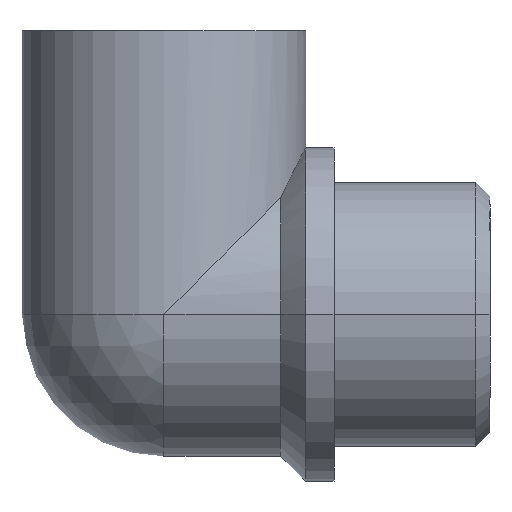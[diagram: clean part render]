
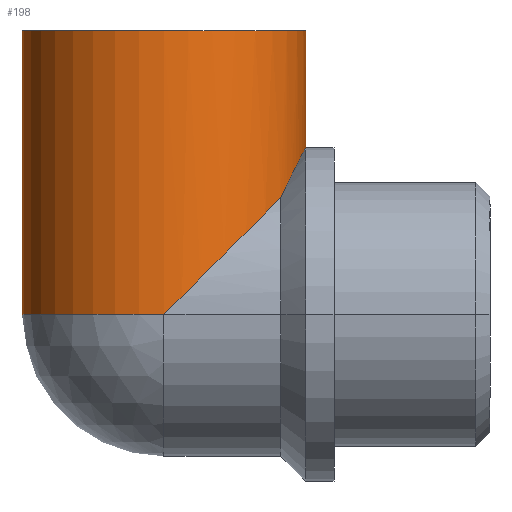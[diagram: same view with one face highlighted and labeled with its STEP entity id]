
A CAD part, front view. The second image highlights one B-rep face of the part: STEP entity #198.
In plain terms, the highlighted cylindrical face has radius 10 mm (diameter 20 mm), a partial arc.
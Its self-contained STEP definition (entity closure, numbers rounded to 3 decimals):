
#6 = EDGE_CURVE ( 'NONE', #68, #251, #533, .T. ) ;
#41 = VERTEX_POINT ( 'NONE', #555 ) ;
#51 = EDGE_CURVE ( 'NONE', #139, #41, #586, .T. ) ;
#67 = EDGE_CURVE ( 'NONE', #138, #68, #489, .T. ) ;
#68 = VERTEX_POINT ( 'NONE', #485 ) ;
#138 = VERTEX_POINT ( 'NONE', #734 ) ;
#139 = VERTEX_POINT ( 'NONE', #733 ) ;
#198 = ADVANCED_FACE ( 'NONE', ( #835 ), #831, .T. ) ;
#199 = EDGE_LOOP ( 'NONE', ( #200, #201, #202, #203, #212, #213 ) ) ;
#200 = ORIENTED_EDGE ( 'NONE', *, *, #67, .F. ) ;
#201 = ORIENTED_EDGE ( 'NONE', *, *, #285, .F. ) ;
#202 = ORIENTED_EDGE ( 'NONE', *, *, #51, .T. ) ;
#203 = ORIENTED_EDGE ( 'NONE', *, *, #240, .T. ) ;
#212 = ORIENTED_EDGE ( 'NONE', *, *, #243, .F. ) ;
#213 = ORIENTED_EDGE ( 'NONE', *, *, #6, .F. ) ;
#240 = EDGE_CURVE ( 'NONE', #41, #242, #986, .T. ) ;
#242 = VERTEX_POINT ( 'NONE', #901 ) ;
#243 = EDGE_CURVE ( 'NONE', #251, #242, #900, .T. ) ;
#251 = VERTEX_POINT ( 'NONE', #874 ) ;
#285 = EDGE_CURVE ( 'NONE', #139, #138, #887, .T. ) ;
#458 = CARTESIAN_POINT ( 'NONE',  ( -14.75, -5.651, 8.25 ) ) ;
#459 = CARTESIAN_POINT ( 'NONE',  ( -14.644, -5.497, 8.484 ) ) ;
#460 = CARTESIAN_POINT ( 'NONE',  ( -14.538, -5.333, 8.712 ) ) ;
#461 = CARTESIAN_POINT ( 'NONE',  ( -13., 0., 11.75 ) ) ;
#485 = CARTESIAN_POINT ( 'NONE',  ( -13., 0., 11.75 ) ) ;
#486 = DIRECTION ( 'NONE',  ( 0., 0., -1. ) ) ;
#487 = VECTOR ( 'NONE', #486, 1000. ) ;
#488 = CARTESIAN_POINT ( 'NONE',  ( -13., 0., 20. ) ) ;
#489 = LINE ( 'NONE', #488, #487 ) ;
#490 = CARTESIAN_POINT ( 'NONE',  ( -13.483, -3.082, 10.84 ) ) ;
#491 = CARTESIAN_POINT ( 'NONE',  ( -13.405, -2.83, 10.99 ) ) ;
#492 = CARTESIAN_POINT ( 'NONE',  ( -13.267, -2.31, 11.252 ) ) ;
#493 = CARTESIAN_POINT ( 'NONE',  ( -13.206, -2.039, 11.366 ) ) ;
#494 = CARTESIAN_POINT ( 'NONE',  ( -13.105, -1.476, 11.554 ) ) ;
#533 = B_SPLINE_CURVE_WITH_KNOTS ( 'NONE', 3,
 ( #461, #571, #570, #569, #494, #493, #492, #491, #490, #575, #574, #573, #572, #460, #459, #458 ),
 .UNSPECIFIED., .F., .F.,
 ( 4, 2, 2, 2, 2, 2, 2, 4 ),
 ( 0.008, 0.009, 0.009, 0.01, 0.011, 0.013, 0.014, 0.015 ),
 .UNSPECIFIED. ) ;
#555 = CARTESIAN_POINT ( 'NONE',  ( -33., 0., 0. ) ) ;
#569 = CARTESIAN_POINT ( 'NONE',  ( -13.066, -1.185, 11.627 ) ) ;
#570 = CARTESIAN_POINT ( 'NONE',  ( -13.014, -0.599, 11.725 ) ) ;
#571 = CARTESIAN_POINT ( 'NONE',  ( -13., -0.302, 11.75 ) ) ;
#572 = CARTESIAN_POINT ( 'NONE',  ( -14.329, -4.985, 9.155 ) ) ;
#573 = CARTESIAN_POINT ( 'NONE',  ( -14.225, -4.801, 9.37 ) ) ;
#574 = CARTESIAN_POINT ( 'NONE',  ( -13.924, -4.221, 9.983 ) ) ;
#575 = CARTESIAN_POINT ( 'NONE',  ( -13.735, -3.797, 10.355 ) ) ;
#583 = DIRECTION ( 'NONE',  ( 0., 0., -1. ) ) ;
#584 = VECTOR ( 'NONE', #583, 1000. ) ;
#585 = CARTESIAN_POINT ( 'NONE',  ( -33., 0., 20. ) ) ;
#586 = LINE ( 'NONE', #585, #584 ) ;
#733 = CARTESIAN_POINT ( 'NONE',  ( -33., 0., 20. ) ) ;
#734 = CARTESIAN_POINT ( 'NONE',  ( -13., 0., 20. ) ) ;
#826 = DIRECTION ( 'NONE',  ( -1., 0., 0. ) ) ;
#827 = DIRECTION ( 'NONE',  ( 0., 0., -1. ) ) ;
#828 = CARTESIAN_POINT ( 'NONE',  ( -23., 0., 20. ) ) ;
#829 = AXIS2_PLACEMENT_3D ( 'NONE', #828, #827, #826 ) ;
#831 = CYLINDRICAL_SURFACE ( 'NONE', #829, 10. ) ;
#835 = FACE_OUTER_BOUND ( 'NONE', #199, .T. ) ;
#874 = CARTESIAN_POINT ( 'NONE',  ( -14.75, -5.651, 8.25 ) ) ;
#884 = DIRECTION ( 'NONE',  ( 1., 0., 0. ) ) ;
#885 = DIRECTION ( 'NONE',  ( 0., 0., 1. ) ) ;
#886 = AXIS2_PLACEMENT_3D ( 'NONE', #1007, #885, #884 ) ;
#887 = CIRCLE ( 'NONE', #886, 10. ) ;
#900 =( BOUNDED_CURVE ( )  B_SPLINE_CURVE ( 3, ( #955, #954, #936, #935 ),
 .UNSPECIFIED., .F., .T. ) 
 B_SPLINE_CURVE_WITH_KNOTS ( ( 4, 4 ),
 ( 0.601, 1.571 ),
 .UNSPECIFIED. ) 
 CURVE ( )  GEOMETRIC_REPRESENTATION_ITEM ( )  RATIONAL_B_SPLINE_CURVE ( ( 1., 0.923, 0.923, 1. ) ) 
 REPRESENTATION_ITEM ( '' )  );
#901 = CARTESIAN_POINT ( 'NONE',  ( -23., -10., 0. ) ) ;
#902 = DIRECTION ( 'NONE',  ( 1., 0., 0. ) ) ;
#903 = DIRECTION ( 'NONE',  ( 0., 0., 1. ) ) ;
#904 = AXIS2_PLACEMENT_3D ( 'NONE', #985, #903, #902 ) ;
#935 = CARTESIAN_POINT ( 'NONE',  ( -23., -10., 0. ) ) ;
#936 = CARTESIAN_POINT ( 'NONE',  ( -19.632, -10., 3.368 ) ) ;
#954 = CARTESIAN_POINT ( 'NONE',  ( -16.653, -8.43, 6.347 ) ) ;
#955 = CARTESIAN_POINT ( 'NONE',  ( -14.75, -5.651, 8.25 ) ) ;
#985 = CARTESIAN_POINT ( 'NONE',  ( -23., 0., 0. ) ) ;
#986 = CIRCLE ( 'NONE', #904, 10. ) ;
#1007 = CARTESIAN_POINT ( 'NONE',  ( -23., 0., 20. ) ) ;
